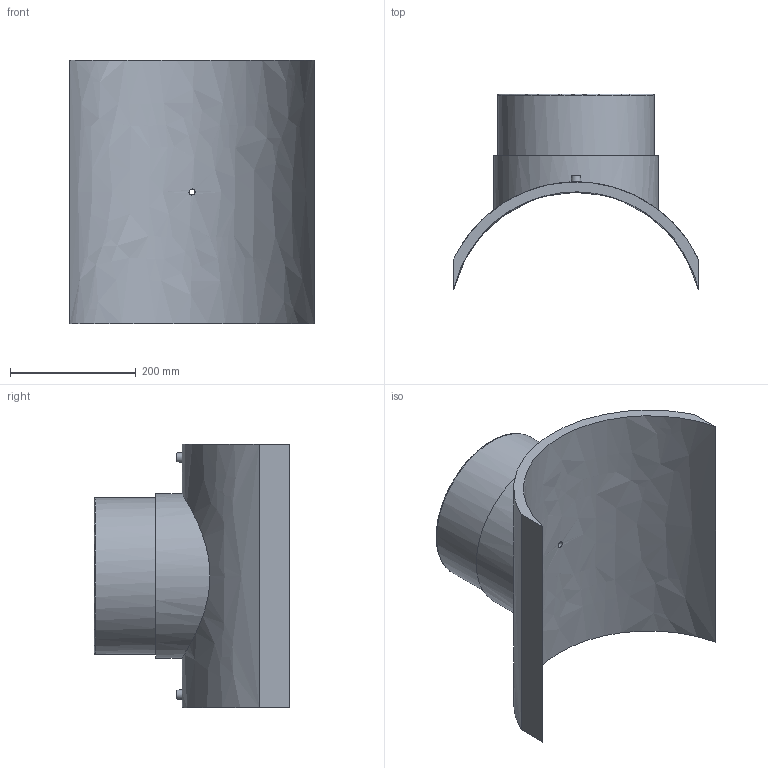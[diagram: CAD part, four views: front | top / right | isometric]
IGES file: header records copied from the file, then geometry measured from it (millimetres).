
Global section: file name: 495803400250T; native system: Autodesk Inventor 2019; preprocessor: unknown; author: KIM; date: 20240404.114834; units: millimetre
Bounding box: 390 x 311.56 x 420 mm (x, y, z)
Volume: 6488630.6 mm3; surface area: 717641.6 mm2
Topology: 1 solids, 1 shells, 29 faces, 60 edges, 43 vertices
Faces by surface type: bspline 29
